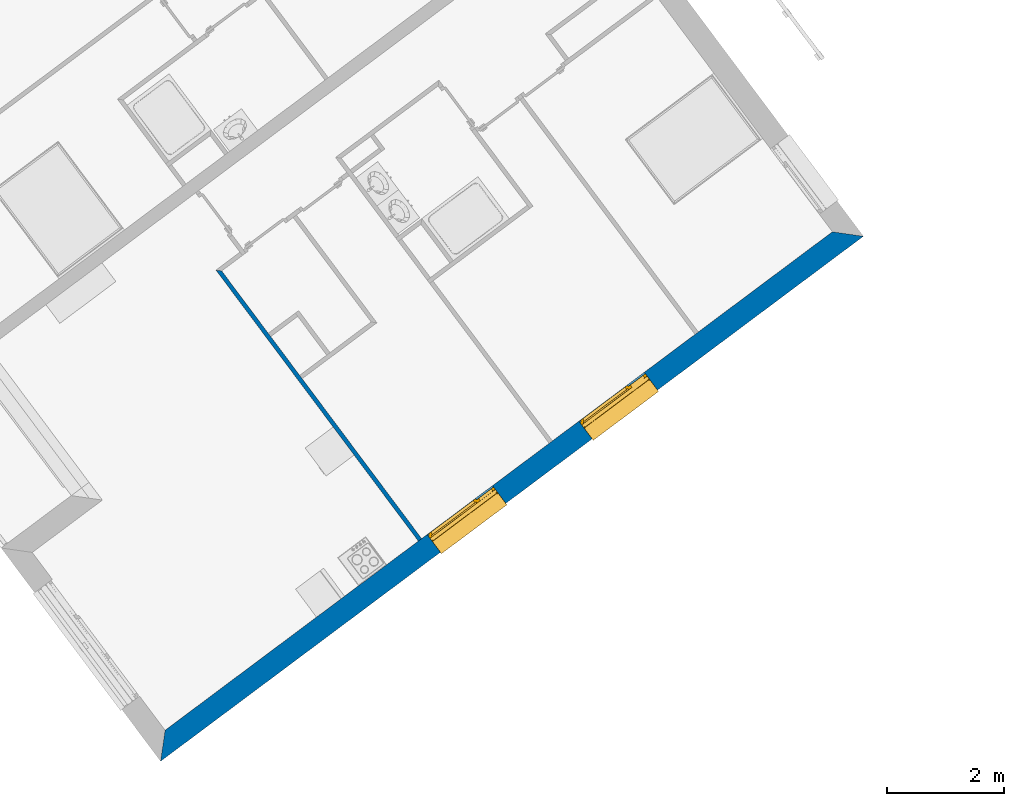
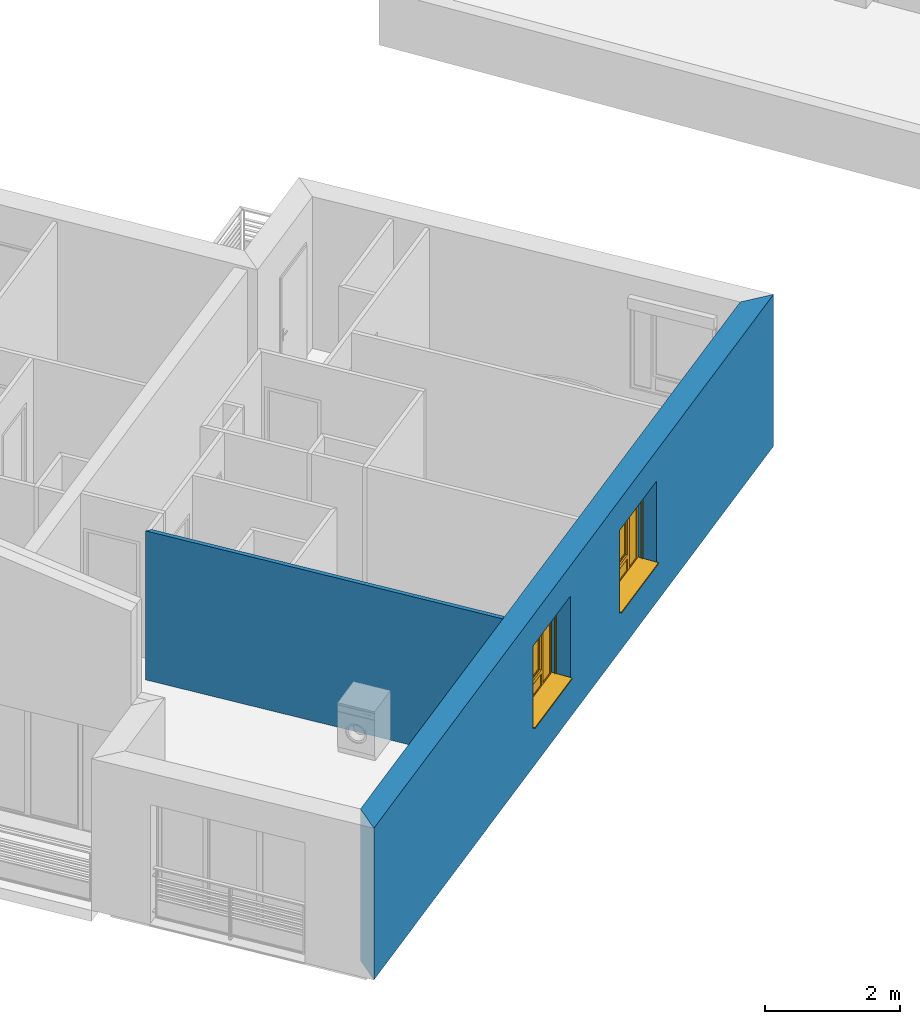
# One storey, part 5 of 121: 2 walls, 2 windows, 2 openings.
"""IFC2X3 building model written with IfcOpenShell, lengths in metres."""

from ifc_helpers import new_model, entity, si_unit, converted_unit, derived_unit, money_unit, direction, frame, origin_with_axes, place, context, subcontext, project, spatial, polyline, outline, extrude, open_shell, faceted_brep, surface_model, source, transform, mapped, material, layer, layer_set, layer_usage, type_object, element, fill, save


model = new_model("IFC2X3")

# Units and contexts
model_context = context("Model", 3, precision=1e-05, world=origin_with_axes(), true_north=direction((0.0, 1.0)))
body_context = subcontext(model_context, "Body", "Model", "MODEL_VIEW")
ifc_project = project(units=[si_unit("LENGTHUNIT", "METRE"), si_unit("AREAUNIT", "SQUARE_METRE"), si_unit("VOLUMEUNIT", "CUBIC_METRE"), converted_unit("PLANEANGLEUNIT", "DEGREE", entity("IfcPlaneAngleMeasure", 0.0174532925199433), si_unit("PLANEANGLEUNIT", "RADIAN"), dimensions=[0, 0, 0, 0, 0, 0, 0]), money_unit("CHF"), converted_unit("TIMEUNIT", "Year", entity("IfcTimeMeasure", 31557600.0), si_unit("TIMEUNIT", "SECOND"), dimensions=[0, 0, 1, 0, 0, 0, 0]), si_unit("MASSUNIT", "GRAM", prefix="KILO"), si_unit("THERMODYNAMICTEMPERATUREUNIT", "DEGREE_CELSIUS"), si_unit("LUMINOUSINTENSITYUNIT", "LUMEN"), si_unit("ENERGYUNIT", "JOULE", prefix="MEGA"), derived_unit("THERMALCONDUCTANCEUNIT", [(si_unit("POWERUNIT", "WATT"), 1), (si_unit("LENGTHUNIT", "METRE"), -1), (si_unit("THERMODYNAMICTEMPERATUREUNIT", "KELVIN"), -1)]), derived_unit("SPECIFICHEATCAPACITYUNIT", [(si_unit("ENERGYUNIT", "JOULE"), 1), (si_unit("MASSUNIT", "GRAM", prefix="KILO"), -1), (si_unit("THERMODYNAMICTEMPERATUREUNIT", "KELVIN"), -1)]), derived_unit("MASSDENSITYUNIT", [(si_unit("MASSUNIT", "GRAM", prefix="KILO"), 1), (si_unit("VOLUMEUNIT", "CUBIC_METRE"), -1)])], contexts=[model_context])

# Site, building, storey
site_placement = place(None, origin_with_axes())
site = spatial("IfcSite", under=ifc_project, at=site_placement, Name="Site", CompositionType="ELEMENT")
building_placement = place(site_placement, origin_with_axes())
building = spatial("IfcBuilding", under=site, at=building_placement, Name="Bâtiment", CompositionType="ELEMENT")
storey_placement = place(building_placement, frame((0.0, 0.0, 2.75), z_axis=(0.0, 0.0, 1.0), x_axis=(1.0, 0.0, 0.0)))
storey = spatial("IfcBuildingStorey", under=building, at=storey_placement, Name="Etage 1", CompositionType="ELEMENT", Elevation=2.75)

# Wall
ifc_material_1 = material(Name="Hachure solide 268963992")
ifc_layer_1 = layer(ifc_material_1, 0.07, ventilated="UNKNOWN")
ifc_layer_set_1 = layer_set([ifc_layer_1], Name="Cloison 70 0826278243")
ifc_layer_usage_1 = layer_usage(ifc_layer_set_1, "AXIS2", "NEGATIVE", 0.0)
wall_type_1 = type_object("IfcWallType", Name="Cloison 70 0826278243 70", PredefinedType="NOTDEFINED")
wall_1_placement = place(storey_placement, frame((9536.645699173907, -1080.567401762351, 57.7), z_axis=(0.0, 0.0, 1.0), x_axis=(0.5984464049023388, -0.8011628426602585, 0.0)))
element("IfcWallStandardCase", 1, at=wall_1_placement, inside=storey, type_object=wall_type_1, material=ifc_layer_usage_1, Name="Mur-149", context=body_context, shape_type="SweptSolid", body=[
    extrude(outline(polyline([(9.027871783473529e-10, -0.06999999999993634), (5.799791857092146, -0.07000000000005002), (5.799791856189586, 0.0), (0.07000000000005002, 0.0), (9.027871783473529e-10, -0.06999999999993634)])), origin_with_axes(), (0.0, 0.0, 1.0), 2.7),
])

# Wall, openings, windows
ifc_material_2 = material(Name="Parpaing 312445824")
ifc_layer_2 = layer(ifc_material_2, 0.22, ventilated="UNKNOWN")
ifc_material_3 = material(Name="Isolant styromousse 301821074")
ifc_layer_3 = layer(ifc_material_3, 0.16, ventilated="UNKNOWN")
ifc_layer_set_2 = layer_set([ifc_layer_2, ifc_layer_3], Name="isol int 22+16 0836643197")
ifc_layer_usage_2 = layer_usage(ifc_layer_set_2, "AXIS2", "NEGATIVE", 0.0)
wall_type_2 = type_object("IfcWallType", Name="isol int 22+16 0836643197 380", PredefinedType="NOTDEFINED")
wall_2_placement = place(storey_placement, frame((9547.692042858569, -1080.029617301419, 57.7), z_axis=(0.0, 0.0, 1.0), x_axis=(-0.8011628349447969, -0.598446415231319, 0.0)))
wall_2 = element("IfcWallStandardCase", 2, at=wall_2_placement, inside=storey, type_object=wall_type_2, material=ifc_layer_usage_2, Name="Mur-114", context=body_context, shape_type="SweptSolid", body=[
    extrude(outline(polyline([(0.3799999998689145, -0.3799999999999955), (14.66313195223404, -0.3800000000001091), (15.04313195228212, 0.0), (0.0, 0.0), (0.3799999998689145, -0.3799999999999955)])), origin_with_axes(), (0.0, 0.0, 1.0), 2.75),
])
opening_1_placement = place(wall_2_placement, frame((8.353986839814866, 0.0, 0.7000000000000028), z_axis=(0.0, 0.0, 1.0), x_axis=(1.0, 0.0, 0.0)))
opening_1 = element("IfcOpeningElement", 3, at=opening_1_placement, cuts=wall_2, Name="Fen-045", context=body_context, shape_type="Brep", body=[
    faceted_brep([(-0.6999999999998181, -0.2999999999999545, 1.5), (-0.6999999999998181, -0.2200000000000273, 1.5), (-0.6999999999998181, 7.213475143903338, 1.5), (-0.6999999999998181, 7.213475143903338, 0.0), (-0.7000000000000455, -0.2999999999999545, 0.0), (-0.6999999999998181, -0.4800000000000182, 1.5), (-0.6999999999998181, -0.4800000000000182, 1.700000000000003), (-0.6999999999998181, -0.2200000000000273, 1.700000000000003), (0.7000000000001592, -0.2200000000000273, 1.5), (0.7000000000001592, 7.213475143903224, 1.5), (0.7000000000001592, 7.213475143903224, 0.0), (0.7000000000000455, -0.2999999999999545, 0.0), (-0.6999999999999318, -7.593475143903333, 0.0), (-0.6999999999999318, -7.593475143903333, 1.5), (0.7000000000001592, -0.4799999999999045, 1.5), (0.7000000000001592, -0.4799999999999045, 1.700000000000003), (0.7000000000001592, -0.2200000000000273, 1.700000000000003), (0.7000000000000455, -0.2999999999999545, 1.5), (0.7000000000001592, -7.593475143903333, 0.0), (0.7000000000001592, -7.593475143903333, 1.5)], [[[0, 1, 2, 3, 4]], [[1, 0, 5, 6, 7]], [[1, 8, 9, 2]], [[9, 10, 3, 2]], [[11, 4, 3, 10]], [[5, 0, 4, 12, 13]], [[5, 14, 15, 6]], [[7, 6, 15, 16]], [[8, 1, 7, 16]], [[8, 17, 11, 10, 9]], [[4, 11, 18, 12]], [[13, 12, 18, 19]], [[14, 5, 13, 19]], [[17, 8, 16, 15, 14]], [[17, 14, 19, 18, 11]]]),
])
opening_2_placement = place(wall_2_placement, frame((5.105816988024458, 0.0, 0.7000000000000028), z_axis=(0.0, 0.0, 1.0), x_axis=(1.0, 0.0, 0.0)))
opening_2 = element("IfcOpeningElement", 4, at=opening_2_placement, cuts=wall_2, Name="Fen-045", context=body_context, shape_type="Brep", body=[
    faceted_brep([(-0.6999999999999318, -0.2999999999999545, 1.5), (-0.6999999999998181, -0.2200000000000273, 1.5), (-0.6999999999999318, 7.213475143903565, 1.5), (-0.6999999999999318, 7.213475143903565, 0.0), (-0.7000000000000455, -0.2999999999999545, 0.0), (-0.6999999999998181, -0.4800000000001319, 1.5), (-0.6999999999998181, -0.4800000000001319, 1.700000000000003), (-0.6999999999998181, -0.2200000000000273, 1.700000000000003), (0.7000000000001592, -0.2200000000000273, 1.5), (0.7000000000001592, 7.213475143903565, 1.5), (0.7000000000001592, 7.213475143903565, 0.0), (0.7000000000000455, -0.2999999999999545, 0.0), (-0.7000000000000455, -7.593475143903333, 0.0), (-0.7000000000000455, -7.593475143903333, 1.5), (0.7000000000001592, -0.4800000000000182, 1.5), (0.7000000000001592, -0.4800000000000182, 1.700000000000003), (0.7000000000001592, -0.2200000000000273, 1.700000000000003), (0.7000000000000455, -0.2999999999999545, 1.5), (0.7000000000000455, -7.593475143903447, 0.0), (0.7000000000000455, -7.593475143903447, 1.5)], [[[0, 1, 2, 3, 4]], [[1, 0, 5, 6, 7]], [[1, 8, 9, 2]], [[9, 10, 3, 2]], [[11, 4, 3, 10]], [[5, 0, 4, 12, 13]], [[5, 14, 15, 6]], [[7, 6, 15, 16]], [[8, 1, 7, 16]], [[8, 17, 11, 10, 9]], [[4, 11, 18, 12]], [[13, 12, 18, 19]], [[14, 5, 13, 19]], [[17, 8, 16, 15, 14]], [[17, 14, 19, 18, 11]]]),
])
window_style = type_object("IfcWindowStyle", Name="Fenêtre variable 27", ConstructionType="NOTDEFINED", OperationType="TRIPLE_PANEL_RIGHT", ParameterTakesPrecedence=False, Sizeable=False)
shared_shape = source(origin_with_axes(), body_context, "Body", "SurfaceModel", [
    surface_model("IfcShellBasedSurfaceModel", [(-0.7, -0.05100000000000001, 0.05), (-0.7, -0.05100000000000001, 0.04), (0.7, -0.05100000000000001, 0.04000000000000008), (0.7, -0.05100000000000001, 0.05000000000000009), (-0.7, -0.3799999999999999, 0.02899999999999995), (0.7, -0.3799999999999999, 0.02900000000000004), (-0.7, -0.3799999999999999, 0.008999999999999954), (0.7, -0.3799999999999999, 0.00900000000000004), (-0.7, -0.3699999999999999, 0.01899999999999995), (0.7, -0.3699999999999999, 0.01900000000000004)], [open_shell([[[0, 1, 2, 3]], [[1, 4, 5, 2]], [[4, 6, 7, 5]], [[6, 8, 9, 7]]])]),
    faceted_brep([(-0.7, -0.13, 1.7), (-0.697, -0.13, 1.7), (-0.697, 0.13, 1.7), (-0.7, 0.13, 1.7), (-0.7, -0.13, 1.5), (-0.697, -0.13, 1.5), (-0.697, 0.13, 1.5), (-0.7, 0.13, 1.5)], [[[0, 1, 2, 3]], [[4, 5, 1, 0]], [[1, 5, 6, 2]], [[3, 2, 6, 7]], [[0, 3, 7, 4]], [[7, 6, 5, 4]]]),
    faceted_brep([(0.6970000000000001, -0.1299999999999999, 1.7), (0.7000000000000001, -0.1299999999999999, 1.7), (0.7000000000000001, 0.1300000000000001, 1.7), (0.6970000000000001, 0.1300000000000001, 1.7), (0.6970000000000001, -0.1299999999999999, 1.5), (0.7000000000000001, -0.1299999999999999, 1.5), (0.7000000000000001, 0.1300000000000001, 1.5), (0.6970000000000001, 0.1300000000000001, 1.5)], [[[0, 1, 2, 3]], [[4, 5, 1, 0]], [[1, 5, 6, 2]], [[3, 2, 6, 7]], [[0, 3, 7, 4]], [[7, 6, 5, 4]]]),
    faceted_brep([(-0.697, -0.13, 1.5), (0.697, -0.1299999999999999, 1.5), (0.697, -0.1299999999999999, 1.7), (-0.697, -0.13, 1.7), (-0.697, -0.127, 1.5), (0.697, -0.1269999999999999, 1.5), (0.697, -0.1269999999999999, 1.697), (0.697, 0.1270000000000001, 1.697), (0.697, 0.1270000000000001, 1.503), (0.697, -0.1079999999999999, 1.503), (0.697, -0.1079999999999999, 1.5), (0.697, 0.1300000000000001, 1.5), (0.697, 0.1300000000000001, 1.7), (-0.697, 0.13, 1.7), (-0.697, 0.13, 1.5), (-0.697, -0.108, 1.5), (-0.697, -0.108, 1.503), (-0.697, 0.127, 1.503), (-0.697, 0.127, 1.697), (-0.697, -0.127, 1.697)], [[[0, 1, 2, 3]], [[4, 5, 1, 0]], [[1, 5, 6, 7, 8, 9, 10, 11, 12, 2]], [[3, 2, 12, 13]], [[0, 3, 13, 14, 15, 16, 17, 18, 19, 4]], [[19, 6, 5, 4]], [[18, 7, 6, 19]], [[17, 8, 7, 18]], [[16, 9, 8, 17]], [[15, 10, 9, 16]], [[14, 11, 10, 15]], [[13, 12, 11, 14]]]),
    faceted_brep([(-0.694, -0.08075423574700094, 1.585760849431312), (-0.694, -0.08200000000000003, 1.6), (-0.694, -0.0807542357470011, 1.614239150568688), (-0.694, -0.07705479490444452, 1.628045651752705), (-0.694, -0.07101408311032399, 1.641), (-0.694, -0.06281564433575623, 1.652708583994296), (-0.694, -0.05270858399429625, 1.662815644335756), (-0.694, -0.04100000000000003, 1.671014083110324), (-0.694, -0.02804565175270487, 1.677054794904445), (-0.694, -0.01423915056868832, 1.680754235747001), (-0.694, 0.0, 1.682), (-0.694, 0.01423915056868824, 1.680754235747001), (-0.694, 0.02804565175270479, 1.677054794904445), (-0.694, 0.04099999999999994, 1.671014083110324), (-0.694, 0.05270858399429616, 1.662815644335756), (-0.694, 0.06281564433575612, 1.652708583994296), (-0.694, 0.07101408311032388, 1.641), (-0.694, 0.0770547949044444, 1.628045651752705), (-0.694, 0.08075423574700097, 1.614239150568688), (-0.694, 0.0819999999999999, 1.6), (-0.694, 0.08075423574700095, 1.585760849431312), (-0.694, 0.07705479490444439, 1.571954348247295), (-0.694, 0.07101408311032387, 1.559), (-0.694, 0.06281564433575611, 1.547291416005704), (-0.694, 0.05270858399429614, 1.537184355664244), (-0.694, 0.04099999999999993, 1.528985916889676), (-0.694, 0.02804565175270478, 1.522945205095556), (-0.694, 0.01423915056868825, 1.519245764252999), (-0.694, 0.0, 1.518), (-0.694, -0.01423915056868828, 1.519245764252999), (-0.694, -0.02804565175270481, 1.522945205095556), (-0.694, -0.04099999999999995, 1.528985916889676), (-0.694, -0.05270858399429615, 1.537184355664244), (-0.694, -0.06281564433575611, 1.547291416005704), (-0.694, -0.07101408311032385, 1.559), (-0.694, -0.07705479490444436, 1.571954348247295), (0.694, -0.08075423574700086, 1.585760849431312), (0.694, -0.08199999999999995, 1.6), (0.694, -0.08075423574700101, 1.614239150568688), (0.694, -0.07705479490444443, 1.628045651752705), (0.694, -0.07101408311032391, 1.641), (0.694, -0.06281564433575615, 1.652708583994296), (0.694, -0.05270858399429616, 1.662815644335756), (0.694, -0.04099999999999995, 1.671014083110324), (0.694, -0.02804565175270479, 1.677054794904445), (0.694, -0.01423915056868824, 1.680754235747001), (0.694, 0.0, 1.682), (0.694, 0.01423915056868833, 1.680754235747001), (0.694, 0.02804565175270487, 1.677054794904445), (0.694, 0.04100000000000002, 1.671014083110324), (0.694, 0.05270858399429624, 1.662815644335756), (0.694, 0.0628156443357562, 1.652708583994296), (0.694, 0.07101408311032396, 1.641), (0.694, 0.07705479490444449, 1.628045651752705), (0.694, 0.08075423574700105, 1.614239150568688), (0.694, 0.08199999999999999, 1.6), (0.694, 0.08075423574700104, 1.585760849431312), (0.694, 0.07705479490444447, 1.571954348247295), (0.694, 0.07101408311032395, 1.559), (0.694, 0.06281564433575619, 1.547291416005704), (0.694, 0.05270858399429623, 1.537184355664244), (0.694, 0.04100000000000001, 1.528985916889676), (0.694, 0.02804565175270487, 1.522945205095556), (0.694, 0.01423915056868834, 1.519245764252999), (0.694, 0.0, 1.518), (0.694, -0.0142391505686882, 1.519245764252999), (0.694, -0.02804565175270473, 1.522945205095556), (0.694, -0.04099999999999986, 1.528985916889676), (0.694, -0.05270858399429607, 1.537184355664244), (0.694, -0.06281564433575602, 1.547291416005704), (0.694, -0.07101408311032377, 1.559), (0.694, -0.07705479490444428, 1.571954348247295)], [[[0, 1, 2, 3, 4, 5, 6, 7, 8, 9, 10, 11, 12, 13, 14, 15, 16, 17, 18, 19, 20, 21, 22, 23, 24, 25, 26, 27, 28, 29, 30, 31, 32, 33, 34, 35]], [[0, 36, 37, 1]], [[1, 37, 38, 2]], [[2, 38, 39, 3]], [[3, 39, 40, 4]], [[4, 40, 41, 5]], [[5, 41, 42, 6]], [[6, 42, 43, 7]], [[7, 43, 44, 8]], [[8, 44, 45, 9]], [[9, 45, 46, 10]], [[10, 46, 47, 11]], [[11, 47, 48, 12]], [[12, 48, 49, 13]], [[13, 49, 50, 14]], [[14, 50, 51, 15]], [[15, 51, 52, 16]], [[16, 52, 53, 17]], [[17, 53, 54, 18]], [[18, 54, 55, 19]], [[19, 55, 56, 20]], [[20, 56, 57, 21]], [[21, 57, 58, 22]], [[22, 58, 59, 23]], [[23, 59, 60, 24]], [[24, 60, 61, 25]], [[25, 61, 62, 26]], [[26, 62, 63, 27]], [[27, 63, 64, 28]], [[28, 64, 65, 29]], [[29, 65, 66, 30]], [[30, 66, 67, 31]], [[31, 67, 68, 32]], [[32, 68, 69, 33]], [[33, 69, 70, 34]], [[34, 70, 71, 35]], [[35, 71, 36, 0]], [[36, 71, 70, 69, 68, 67, 66, 65, 64, 63, 62, 61, 60, 59, 58, 57, 56, 55, 54, 53, 52, 51, 50, 49, 48, 47, 46, 45, 44, 43, 42, 41, 40, 39, 38, 37]]]),
    faceted_brep([(0.7, -0.105, 0.03), (0.7, -0.1049999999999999, 1.5), (0.7, -0.1299999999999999, 1.5), (0.7, -0.13, 0.03), (0.6749999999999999, -0.105, 0.03), (0.6749999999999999, -0.1049999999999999, 1.5), (0.6749999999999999, -0.1079999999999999, 1.5), (0.697, -0.1079999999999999, 1.5), (0.697, -0.1269999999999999, 1.5), (0.6749999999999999, -0.1269999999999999, 1.5), (0.6749999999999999, -0.1299999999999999, 1.5), (0.6749999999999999, -0.13, 0.03), (0.6749999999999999, -0.127, 0.03), (0.697, -0.127, 0.03), (0.697, -0.108, 0.03), (0.6749999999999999, -0.108, 0.03)], [[[0, 1, 2, 3]], [[4, 5, 1, 0]], [[1, 5, 6, 7, 8, 9, 10, 2]], [[3, 2, 10, 11]], [[0, 3, 11, 12, 13, 14, 15, 4]], [[15, 6, 5, 4]], [[14, 7, 6, 15]], [[13, 8, 7, 14]], [[12, 9, 8, 13]], [[11, 10, 9, 12]]]),
    faceted_brep([(-0.7, -0.105, 0.03), (-0.7, -0.13, 0.03), (-0.7, -0.1299999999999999, 1.5), (-0.7, -0.1049999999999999, 1.5), (-0.6749999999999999, -0.105, 0.03), (-0.6749999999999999, -0.108, 0.03), (-0.697, -0.108, 0.03), (-0.697, -0.127, 0.03), (-0.6749999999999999, -0.127, 0.03), (-0.6749999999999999, -0.13, 0.03), (-0.6749999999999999, -0.1299999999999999, 1.5), (-0.6749999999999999, -0.1269999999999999, 1.5), (-0.697, -0.1269999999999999, 1.5), (-0.697, -0.1079999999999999, 1.5), (-0.6749999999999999, -0.1079999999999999, 1.5), (-0.6749999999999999, -0.1049999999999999, 1.5)], [[[0, 1, 2, 3]], [[0, 4, 5, 6, 7, 8, 9, 1]], [[1, 9, 10, 2]], [[3, 2, 10, 11, 12, 13, 14, 15]], [[4, 0, 3, 15]], [[5, 4, 15, 14]], [[6, 5, 14, 13]], [[7, 6, 13, 12]], [[8, 7, 12, 11]], [[9, 8, 11, 10]]]),
    surface_model("IfcShellBasedSurfaceModel", [(-0.697, -0.115, 1.6), (0.697, -0.1149999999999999, 1.6), (0.697, -0.1199999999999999, 1.6), (-0.697, -0.12, 1.6), (-0.697, -0.115, 1.6), (-0.697, -0.12, 1.6), (0.697, -0.12, 1.6), (0.697, -0.1149999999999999, 1.6)], [open_shell([[[0, 1, 2, 3]], [[4, 5, 6, 7]]])]),
    faceted_brep([(-0.697, -0.115, 1.6), (0.697, -0.1149999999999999, 1.6), (0.697, -0.1166666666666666, 1.583333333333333), (-0.697, -0.1166666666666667, 1.583333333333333), (-0.697, -0.12, 1.6), (0.697, -0.1199999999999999, 1.6), (0.697, -0.1216666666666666, 1.583333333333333), (0.697, -0.1216666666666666, 1.566666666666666), (0.697, -0.1199999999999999, 1.55), (0.697, -0.1149999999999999, 1.55), (0.697, -0.1166666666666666, 1.566666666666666), (-0.697, -0.1166666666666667, 1.566666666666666), (-0.697, -0.115, 1.55), (-0.697, -0.12, 1.55), (-0.697, -0.1216666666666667, 1.566666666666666), (-0.697, -0.1216666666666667, 1.583333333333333)], [[[0, 1, 2, 3]], [[4, 5, 1, 0]], [[1, 5, 6, 7, 8, 9, 10, 2]], [[3, 2, 10, 11]], [[0, 3, 11, 12, 13, 14, 15, 4]], [[15, 6, 5, 4]], [[14, 7, 6, 15]], [[13, 8, 7, 14]], [[12, 9, 8, 13]], [[11, 10, 9, 12]]]),
    faceted_brep([(-0.697, -0.115, 1.55), (0.697, -0.1149999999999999, 1.55), (0.697, -0.1166666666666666, 1.533333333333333), (-0.697, -0.1166666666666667, 1.533333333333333), (-0.697, -0.12, 1.55), (0.697, -0.1199999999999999, 1.55), (0.697, -0.1216666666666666, 1.533333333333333), (0.697, -0.1216666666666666, 1.516666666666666), (0.697, -0.1199999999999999, 1.5), (0.697, -0.1149999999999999, 1.5), (0.697, -0.1166666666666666, 1.516666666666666), (-0.697, -0.1166666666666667, 1.516666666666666), (-0.697, -0.115, 1.5), (-0.697, -0.12, 1.5), (-0.697, -0.1216666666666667, 1.516666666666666), (-0.697, -0.1216666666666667, 1.533333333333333)], [[[0, 1, 2, 3]], [[4, 5, 1, 0]], [[1, 5, 6, 7, 8, 9, 10, 2]], [[3, 2, 10, 11]], [[0, 3, 11, 12, 13, 14, 15, 4]], [[15, 6, 5, 4]], [[14, 7, 6, 15]], [[13, 8, 7, 14]], [[12, 9, 8, 13]], [[11, 10, 9, 12]]]),
    faceted_brep([(-0.6749999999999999, 0.0, 1.45), (-0.7, 0.0, 1.45), (-0.7, -0.05000000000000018, 1.45), (-0.6499999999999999, -0.05000000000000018, 1.45), (-0.6499999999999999, -0.02500000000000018, 1.45), (-0.6749999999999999, -0.02500000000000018, 1.45), (-0.6749999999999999, 0.0, 0.3099999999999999), (-0.6499999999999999, 0.0, 0.3099999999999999), (-0.6499999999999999, 0.0, 0.265), (-0.6499999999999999, 0.0, 0.05000000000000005), (-0.7, 0.0, 0.05000000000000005), (-0.7, -0.05000000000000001, 0.05000000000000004), (-0.6499999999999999, -0.05000000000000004, 0.335), (-0.6499999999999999, -0.05000000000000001, 0.05000000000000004), (-0.6499999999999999, -0.05000000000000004, 0.265), (-0.6499999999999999, -0.02500000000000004, 0.335), (-0.6499999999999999, -0.02500000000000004, 0.3099999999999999), (-0.6749999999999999, -0.02500000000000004, 0.3099999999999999)], [[[0, 1, 2, 3, 4, 5]], [[6, 7, 8, 9, 10, 1, 0]], [[1, 10, 11, 2]], [[12, 3, 2, 11, 13, 14]], [[4, 3, 12, 15]], [[15, 16, 17, 5, 4]], [[5, 17, 6, 0]], [[6, 17, 16, 7]], [[16, 15, 12, 14, 8, 7]], [[9, 8, 14, 13]], [[10, 9, 13, 11]]]),
    faceted_brep([(0.3068894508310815, -0.02500000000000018, 1.45), (0.3068894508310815, -0.05000000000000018, 1.45), (0.3768894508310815, -0.05000000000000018, 1.45), (0.3768894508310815, 0.0, 1.45), (0.3318894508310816, 0.0, 1.45), (0.3318894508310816, -0.02500000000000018, 1.45), (0.3068894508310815, -0.02500000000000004, 0.335), (0.3068894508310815, -0.05000000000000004, 0.335), (0.3068894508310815, -0.05000000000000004, 0.265), (0.3068894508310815, -0.05000000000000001, 0.05000000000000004), (0.3768894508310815, -0.05000000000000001, 0.05000000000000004), (0.3768894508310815, 0.0, 0.05000000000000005), (0.3318894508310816, 0.0, 0.3099999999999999), (0.3068894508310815, 0.0, 0.05000000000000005), (0.3068894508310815, 0.0, 0.265), (0.3068894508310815, 0.0, 0.3099999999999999), (0.3318894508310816, -0.02500000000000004, 0.3099999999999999), (0.3068894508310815, -0.02500000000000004, 0.3099999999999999)], [[[0, 1, 2, 3, 4, 5]], [[6, 7, 1, 0]], [[8, 9, 10, 2, 1, 7]], [[11, 3, 2, 10]], [[12, 4, 3, 11, 13, 14, 15]], [[12, 16, 5, 4]], [[5, 16, 17, 6, 0]], [[17, 15, 14, 8, 7, 6]], [[14, 13, 9, 8]], [[13, 11, 10, 9]], [[15, 17, 16, 12]]]),
    faceted_brep([(-0.6499999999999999, -0.02500000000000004, 0.335), (-0.6499999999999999, -0.05000000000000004, 0.335), (0.3068894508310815, -0.05000000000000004, 0.335), (0.3068894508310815, -0.02500000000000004, 0.335), (-0.6499999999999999, -0.02500000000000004, 0.3099999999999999), (-0.6499999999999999, 0.0, 0.3099999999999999), (-0.6499999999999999, 0.0, 0.265), (-0.6499999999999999, -0.05000000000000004, 0.265), (0.3068894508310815, -0.05000000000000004, 0.265), (0.3068894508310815, -0.02500000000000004, 0.3099999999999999), (0.3068894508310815, 0.0, 0.265), (0.3068894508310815, 0.0, 0.3099999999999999)], [[[0, 1, 2, 3]], [[4, 5, 6, 7, 1, 0]], [[2, 1, 7, 8]], [[9, 3, 2, 8, 10, 11]], [[9, 4, 0, 3]], [[5, 4, 9, 11]], [[11, 10, 6, 5]], [[6, 10, 8, 7]]]),
    faceted_brep([(-0.6749999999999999, 0.0, 1.45), (-0.7, 0.0, 1.45), (-0.7, 0.0, 1.5), (0.7, 0.0, 1.5), (0.7, 0.0, 1.45), (0.6499999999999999, 0.0, 1.45), (0.3768894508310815, 0.0, 1.45), (0.3318894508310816, 0.0, 1.45), (0.3318894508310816, 0.0, 1.475), (-0.6749999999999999, 0.0, 1.475), (-0.6749999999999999, -0.02500000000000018, 1.45), (-0.6499999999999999, -0.02500000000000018, 1.45), (-0.6499999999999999, -0.05000000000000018, 1.45), (-0.7, -0.05000000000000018, 1.45), (-0.7, -0.05000000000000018, 1.5), (0.7, -0.05000000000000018, 1.5), (0.7, -0.05000000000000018, 1.45), (0.6499999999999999, -0.05000000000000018, 1.45), (0.3768894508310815, -0.05000000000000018, 1.45), (0.3318894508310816, -0.02500000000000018, 1.45), (0.3068894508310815, -0.05000000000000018, 1.45), (0.3068894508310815, -0.02500000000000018, 1.45), (0.3318894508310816, -0.02500000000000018, 1.475), (-0.6749999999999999, -0.02500000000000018, 1.475)], [[[0, 1, 2, 3, 4, 5, 6, 7, 8, 9]], [[10, 11, 12, 13, 1, 0]], [[2, 1, 13, 14]], [[3, 2, 14, 15]], [[4, 3, 15, 16]], [[5, 4, 16, 17]], [[6, 5, 17, 18]], [[19, 7, 6, 18, 20, 21]], [[7, 19, 22, 8]], [[8, 22, 23, 9]], [[9, 23, 10, 0]], [[21, 11, 10, 23, 22, 19]], [[21, 20, 12, 11]], [[18, 17, 16, 15, 14, 13, 12, 20]]]),
    faceted_brep([(0.6499999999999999, -0.05000000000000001, 0.05), (0.6499999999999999, 0.0, 0.05000000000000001), (0.7, 0.0, 0.05000000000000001), (0.7, -0.05000000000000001, 0.05), (0.6499999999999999, -0.05000000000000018, 1.45), (0.6499999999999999, 0.0, 1.45), (0.7, 0.0, 1.45), (0.7, -0.05000000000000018, 1.45)], [[[0, 1, 2, 3]], [[4, 5, 1, 0]], [[1, 5, 6, 2]], [[3, 2, 6, 7]], [[0, 3, 7, 4]], [[7, 6, 5, 4]]]),
    faceted_brep([(-0.6499999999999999, -0.05000000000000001, 0.05), (-0.6499999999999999, 0.0, 0.05000000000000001), (-0.7, 0.0, 0.05000000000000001), (-0.7, -0.05000000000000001, 0.05), (0.3068894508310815, -0.05000000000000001, 0.05), (0.3068894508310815, 0.0, 0.05000000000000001), (0.3768894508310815, 0.0, 0.05000000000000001), (0.6499999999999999, 0.0, 0.05000000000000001), (0.7, 0.0, 0.05000000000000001), (0.7, 0.0, 0.0), (-0.7, 0.0, 0.0), (-0.7, -0.05, 0.0), (0.7, -0.05, 0.0), (0.7, -0.05000000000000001, 0.05), (0.6499999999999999, -0.05000000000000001, 0.05), (0.3768894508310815, -0.05000000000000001, 0.05)], [[[0, 1, 2, 3]], [[4, 5, 1, 0]], [[1, 5, 6, 7, 8, 9, 10, 2]], [[3, 2, 10, 11]], [[0, 3, 11, 12, 13, 14, 15, 4]], [[15, 6, 5, 4]], [[14, 7, 6, 15]], [[13, 8, 7, 14]], [[12, 9, 8, 13]], [[11, 10, 9, 12]]]),
    faceted_brep([(-0.625, -0.02500000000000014, 1.425), (-0.625, 0.02499999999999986, 1.425), (-0.6749999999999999, 0.02499999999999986, 1.425), (-0.6749999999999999, -0.02500000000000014, 1.425), (-0.625, -0.02500000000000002, 0.3599999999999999), (-0.625, 0.02499999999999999, 0.3599999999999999), (-0.6749999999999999, 0.02499999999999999, 0.3599999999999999), (-0.6749999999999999, -0.02500000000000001, 0.3599999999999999)], [[[0, 1, 2, 3]], [[4, 5, 1, 0]], [[1, 5, 6, 2]], [[3, 2, 6, 7]], [[0, 3, 7, 4]], [[7, 6, 5, 4]]]),
    faceted_brep([(0.2818894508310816, -0.02500000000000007, 0.3599999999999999), (0.2818894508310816, 0.02499999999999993, 0.3599999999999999), (0.3318894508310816, 0.02499999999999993, 0.3599999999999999), (0.3318894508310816, -0.02500000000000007, 0.3599999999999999), (0.2818894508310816, -0.0250000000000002, 1.425), (0.2818894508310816, 0.0249999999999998, 1.425), (0.3318894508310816, 0.0249999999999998, 1.425), (0.3318894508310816, -0.0250000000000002, 1.425)], [[[0, 1, 2, 3]], [[4, 5, 1, 0]], [[1, 5, 6, 2]], [[3, 2, 6, 7]], [[0, 3, 7, 4]], [[7, 6, 5, 4]]]),
    faceted_brep([(0.3318894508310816, -0.02500000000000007, 0.3099999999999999), (0.3318894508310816, 0.02499999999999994, 0.3099999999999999), (0.3318894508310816, 0.02499999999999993, 0.3599999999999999), (0.3318894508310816, -0.02500000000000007, 0.3599999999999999), (-0.6749999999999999, -0.025, 0.3099999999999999), (-0.6749999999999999, 0.02499999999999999, 0.3099999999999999), (-0.6749999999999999, 0.02499999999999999, 0.3599999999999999), (-0.625, 0.02499999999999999, 0.3599999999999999), (0.2818894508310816, 0.02499999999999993, 0.3599999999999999), (0.2818894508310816, -0.02500000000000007, 0.3599999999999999), (-0.625, -0.02500000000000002, 0.3599999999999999), (-0.6749999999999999, -0.02500000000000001, 0.3599999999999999)], [[[0, 1, 2, 3]], [[4, 5, 1, 0]], [[1, 5, 6, 7, 8, 2]], [[3, 2, 8, 9]], [[0, 3, 9, 10, 11, 4]], [[11, 6, 5, 4]], [[10, 7, 6, 11]], [[9, 8, 7, 10]]]),
    faceted_brep([(-0.6749999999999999, -0.02500000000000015, 1.475), (-0.6749999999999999, 0.02499999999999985, 1.475), (-0.6749999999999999, 0.02499999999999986, 1.425), (-0.6749999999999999, -0.02500000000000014, 1.425), (0.3318894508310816, -0.02500000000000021, 1.475), (0.3318894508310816, 0.02499999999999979, 1.475), (0.3318894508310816, 0.0249999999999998, 1.425), (0.2818894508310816, 0.0249999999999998, 1.425), (-0.625, 0.02499999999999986, 1.425), (-0.625, -0.02500000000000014, 1.425), (0.2818894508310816, -0.0250000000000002, 1.425), (0.3318894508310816, -0.0250000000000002, 1.425)], [[[0, 1, 2, 3]], [[4, 5, 1, 0]], [[1, 5, 6, 7, 8, 2]], [[3, 2, 8, 9]], [[0, 3, 9, 10, 11, 4]], [[11, 6, 5, 4]], [[10, 7, 6, 11]], [[9, 8, 7, 10]]]),
    surface_model("IfcShellBasedSurfaceModel", [(-0.625, -0.01000000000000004, 0.3599999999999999), (0.2818894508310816, -0.01000000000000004, 0.3599999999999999), (0.2818894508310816, -0.01000000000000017, 1.425), (-0.625, -0.01000000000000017, 1.425)], [open_shell([[[0, 1, 2, 3]]])]),
    surface_model("IfcShellBasedSurfaceModel", [(-0.625, 0.009999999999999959, 0.3599999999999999), (-0.625, 0.00999999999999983, 1.425), (0.2818894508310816, 0.00999999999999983, 1.425), (0.2818894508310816, 0.009999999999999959, 0.3599999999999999)], [open_shell([[[0, 1, 2, 3]]])]),
    surface_model("IfcShellBasedSurfaceModel", [(0.3768894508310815, -0.035, 0.05), (0.65, -0.035, 0.05), (0.65, -0.03500000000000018, 1.45), (0.3768894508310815, -0.03500000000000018, 1.45)], [open_shell([[[0, 1, 2, 3]]])]),
    surface_model("IfcShellBasedSurfaceModel", [(0.3768894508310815, -0.015, 0.05), (0.3768894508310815, -0.01500000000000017, 1.45), (0.65, -0.01500000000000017, 1.45), (0.65, -0.015, 0.05)], [open_shell([[[0, 1, 2, 3]]])]),
    surface_model("IfcShellBasedSurfaceModel", [(-0.6499999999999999, -0.035, 0.05), (0.3068894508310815, -0.035, 0.05), (0.3068894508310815, -0.03500000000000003, 0.265), (-0.6499999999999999, -0.03500000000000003, 0.265)], [open_shell([[[0, 1, 2, 3]]])]),
    surface_model("IfcShellBasedSurfaceModel", [(-0.6499999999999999, -0.015, 0.05), (-0.6499999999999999, -0.01500000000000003, 0.265), (0.3068894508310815, -0.01500000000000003, 0.265), (0.3068894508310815, -0.015, 0.05)], [open_shell([[[0, 1, 2, 3]]])]),
])
window_1_placement = place(opening_1_placement, frame((0.6999999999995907, 0.0, 0.0), z_axis=(0.0, 0.0, 1.0), x_axis=(-1.0, 0.0, 0.0)))
window_1 = element("IfcWindow", 5, at=window_1_placement, inside=storey, type_object=window_style, Name="Fen-045", OverallHeight=1.5, OverallWidth=1.4, context=body_context, shape_type="MappedRepresentation", body=[
    mapped(shared_shape, transform((0.7000000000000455, 0.3500000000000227, 0.0))),
])
fill(opening_1, window_1)
window_2_placement = place(opening_2_placement, frame((0.6999999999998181, 0.0, 0.0), z_axis=(0.0, 0.0, 1.0), x_axis=(-1.0, 0.0, 0.0)))
window_2 = element("IfcWindow", 6, at=window_2_placement, inside=storey, type_object=window_style, Name="Fen-045", OverallHeight=1.5, OverallWidth=1.4, context=body_context, shape_type="MappedRepresentation", body=[
    mapped(shared_shape, transform((0.7000000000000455, 0.3500000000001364, 0.0))),
])
fill(opening_2, window_2)

save(model, "model.ifc")
